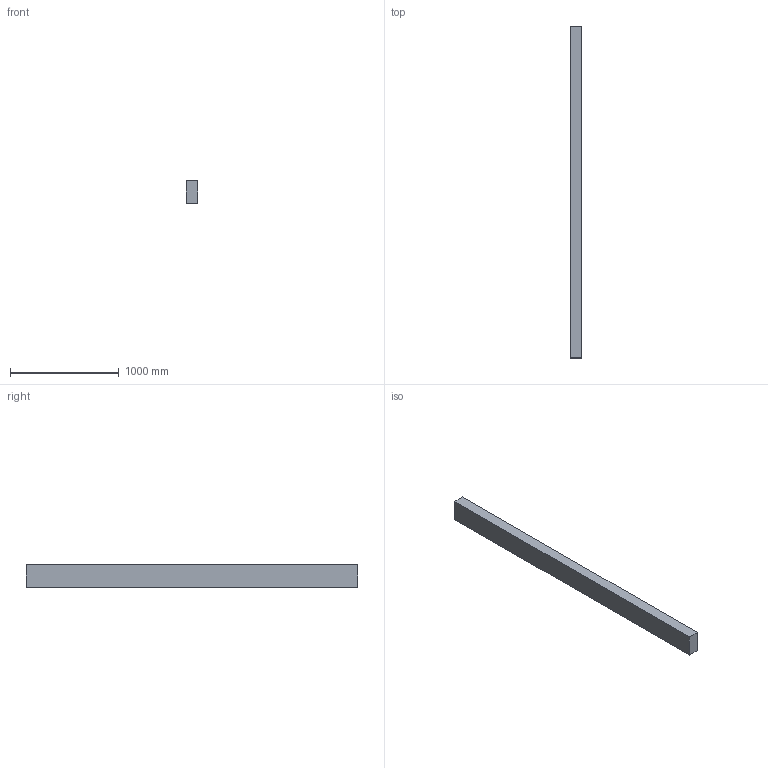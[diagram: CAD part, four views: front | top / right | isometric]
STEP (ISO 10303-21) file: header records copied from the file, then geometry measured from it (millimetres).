
FILE_DESCRIPTION(/* description */ (''),/* implementation_level */ '2;1');
FILE_NAME(/* name */ '4x8x120',/* time_stamp */ '2024-09-20T11:45:59-05:00',/* author */ (''),/* organization */ (''),/* preprocessor_version */ 'ST-DEVELOPER v19.2',/* originating_system */ 'Rhino 8.5',/* authorisation */ '');
FILE_SCHEMA (('CONFIG_CONTROL_DESIGN'));
Length unit declared in the file: inch
Products named in the file (1): Document
Bounding box: 101.6 x 3048 x 203.2 mm (x, y, z)
Volume: 62926325.8 mm3; surface area: 1899351 mm2
Topology: 1 solids, 1 shells, 6 faces, 12 edges, 8 vertices
Faces by surface type: plane 6
Entity records: 226 total; most frequent: CARTESIAN_POINT 40, ORIENTED_EDGE 24, EDGE_CURVE 12, B_SPLINE_CURVE_WITH_KNOTS 12, DIRECTION 10, VERTEX_POINT 8, AXIS2_PLACEMENT_3D 8, ORGANIZATION 7
